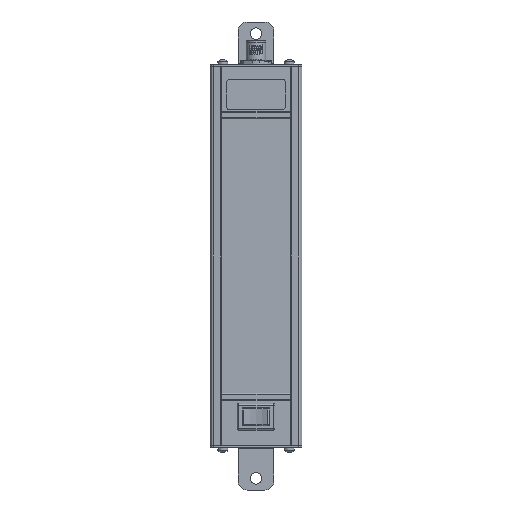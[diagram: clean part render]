
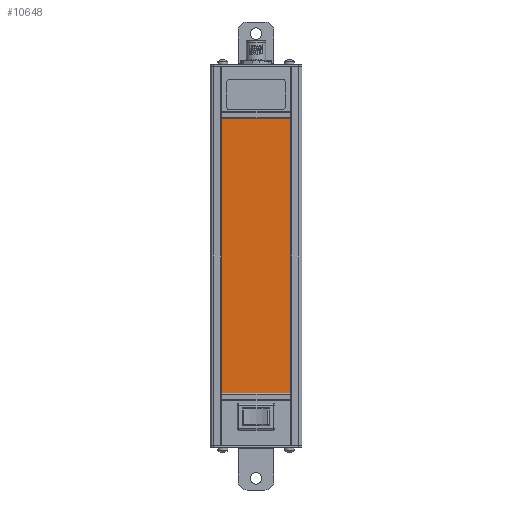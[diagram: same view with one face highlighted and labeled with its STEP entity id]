
A CAD part, front view. The second image highlights one B-rep face of the part: STEP entity #10648.
In plain terms, the highlighted planar face has unit normal (0, -1, 0).
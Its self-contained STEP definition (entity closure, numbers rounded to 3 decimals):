
#24 = VERTEX_POINT ( 'NONE', #25640 ) ;
#279 = EDGE_CURVE ( 'NONE', #1536, #469, #3992, .T. ) ;
#469 = VERTEX_POINT ( 'NONE', #22932 ) ;
#1275 = VECTOR ( 'NONE', #29622, 1000. ) ;
#1462 = VECTOR ( 'NONE', #13672, 1000. ) ;
#1536 = VERTEX_POINT ( 'NONE', #30502 ) ;
#1932 = EDGE_LOOP ( 'NONE', ( #22109, #3902, #13269, #24460 ) ) ;
#2868 = VERTEX_POINT ( 'NONE', #29793 ) ;
#3777 = LINE ( 'NONE', #21715, #1462 ) ;
#3788 = VECTOR ( 'NONE', #24109, 1000. ) ;
#3902 = ORIENTED_EDGE ( 'NONE', *, *, #25789, .F. ) ;
#3992 = LINE ( 'NONE', #24293, #1275 ) ;
#7272 = EDGE_CURVE ( 'NONE', #2868, #1536, #11027, .T. ) ;
#10648 = ADVANCED_FACE ( 'NONE', ( #12112 ), #22521, .T. ) ;
#11027 = LINE ( 'NONE', #31811, #3788 ) ;
#12112 = FACE_OUTER_BOUND ( 'NONE', #1932, .T. ) ;
#13269 = ORIENTED_EDGE ( 'NONE', *, *, #279, .F. ) ;
#13672 = DIRECTION ( 'NONE',  ( 0., 0., -1. ) ) ;
#16840 = VECTOR ( 'NONE', #29120, 1000. ) ;
#17151 = CARTESIAN_POINT ( 'NONE',  ( 78.5, 0., -21. ) ) ;
#19829 = DIRECTION ( 'NONE',  ( 0., 0., -1. ) ) ;
#21715 = CARTESIAN_POINT ( 'NONE',  ( 78.5, 0., 21. ) ) ;
#22109 = ORIENTED_EDGE ( 'NONE', *, *, #29920, .F. ) ;
#22521 = PLANE ( 'NONE',  #31397 ) ;
#22932 = CARTESIAN_POINT ( 'NONE',  ( -78.5, 0., 21. ) ) ;
#24109 = DIRECTION ( 'NONE',  ( -1., 0., 0. ) ) ;
#24293 = CARTESIAN_POINT ( 'NONE',  ( -78.5, 0., 21. ) ) ;
#24460 = ORIENTED_EDGE ( 'NONE', *, *, #7272, .F. ) ;
#25640 = CARTESIAN_POINT ( 'NONE',  ( 78.5, 0., 21. ) ) ;
#25789 = EDGE_CURVE ( 'NONE', #469, #24, #31637, .T. ) ;
#26603 = CARTESIAN_POINT ( 'NONE',  ( -78.5, 0., 21. ) ) ;
#29120 = DIRECTION ( 'NONE',  ( 1., 0., 0. ) ) ;
#29622 = DIRECTION ( 'NONE',  ( 0., 0., 1. ) ) ;
#29793 = CARTESIAN_POINT ( 'NONE',  ( 78.5, 0., -21. ) ) ;
#29920 = EDGE_CURVE ( 'NONE', #24, #2868, #3777, .T. ) ;
#30502 = CARTESIAN_POINT ( 'NONE',  ( -78.5, 0., -21. ) ) ;
#31397 = AXIS2_PLACEMENT_3D ( 'NONE', #17151, #32734, #19829 ) ;
#31637 = LINE ( 'NONE', #26603, #16840 ) ;
#31811 = CARTESIAN_POINT ( 'NONE',  ( -78.5, 0., -21. ) ) ;
#32734 = DIRECTION ( 'NONE',  ( 0., -1., 0. ) ) ;
